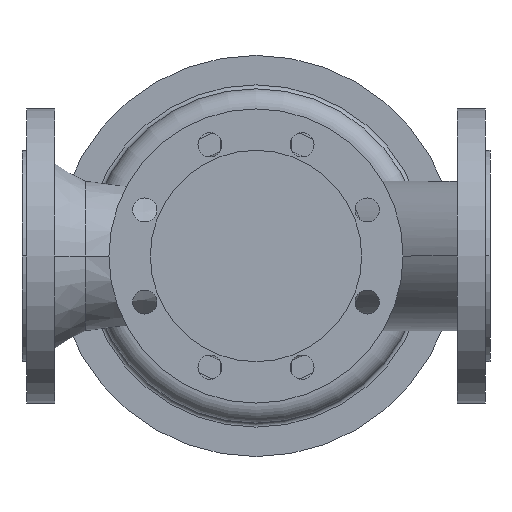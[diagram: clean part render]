
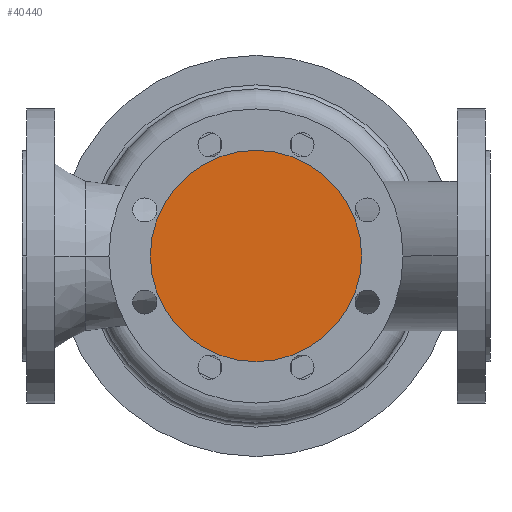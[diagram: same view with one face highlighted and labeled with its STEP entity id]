
A CAD part, front view. The second image highlights one B-rep face of the part: STEP entity #40440.
In plain terms, the highlighted planar face has unit normal (0, -1, 0).
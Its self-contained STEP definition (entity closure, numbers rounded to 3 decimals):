
#3540=CARTESIAN_POINT('',(254.,-150.,0.));
#3550=VERTEX_POINT('',#3540);
#3710=CARTESIAN_POINT('',(96.,-150.,0.));
#3720=VERTEX_POINT('',#3710);
#3750=CARTESIAN_POINT('',(175.,-150.,0.));
#3760=DIRECTION('',(0.,1.,0.));
#3770=DIRECTION('',(1.,0.,0.));
#3780=AXIS2_PLACEMENT_3D('',#3750,#3760,#3770);
#3790=CIRCLE('',#3780,79.);
#3800=EDGE_CURVE('',#3550,#3720,#3790,.T.);
#40340=CARTESIAN_POINT('',(214.5,-150.,0.));
#40350=DIRECTION('',(0.,-1.,0.));
#40360=DIRECTION('',(-1.,0.,0.));
#40370=AXIS2_PLACEMENT_3D('',#40340,#40350,#40360);
#40380=PLANE('',#40370);
#40390=EDGE_CURVE('',#3720,#3550,#3790,.T.);
#40400=ORIENTED_EDGE('',*,*,#40390,.F.);
#40410=ORIENTED_EDGE('',*,*,#3800,.F.);
#40420=EDGE_LOOP('',(#40410,#40400));
#40430=FACE_OUTER_BOUND('',#40420,.T.);
#40440=ADVANCED_FACE('',(#40430),#40380,.T.);
